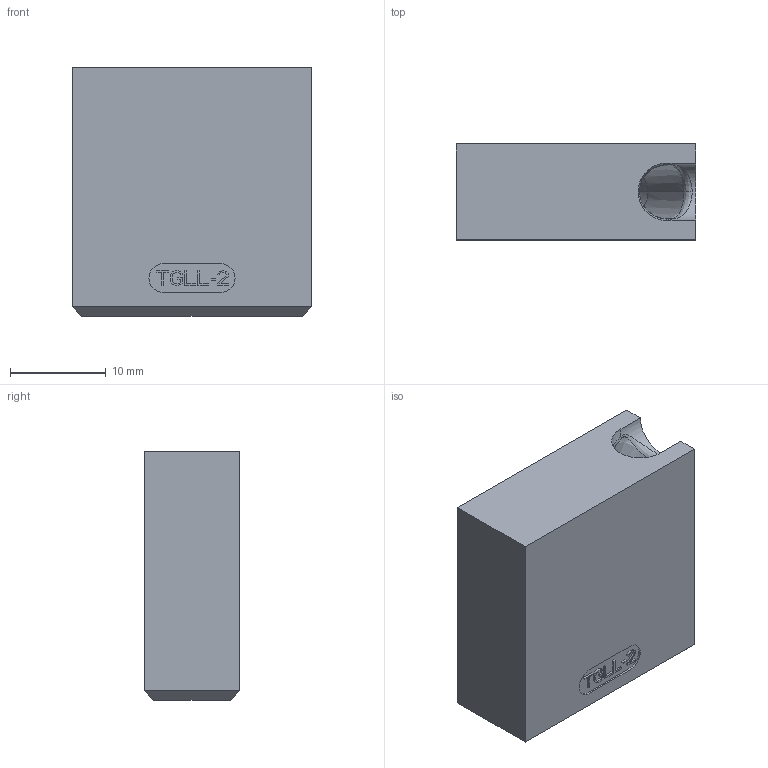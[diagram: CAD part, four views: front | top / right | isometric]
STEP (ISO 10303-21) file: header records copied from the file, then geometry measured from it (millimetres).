
FILE_DESCRIPTION((''),'2;1');
FILE_NAME('TGLL-2','2018-10-08T',('gsawatzky'),(''),'CREO PARAMETRIC BY PTC INC, 2016260','CREO PARAMETRIC BY PTC INC, 2016260','');
FILE_SCHEMA(('AUTOMOTIVE_DESIGN { 1 0 10303 214 1 1 1 1 }'));
Length unit declared in the file: millimetre
Products named in the file (1): TGLL-2
Bounding box: 25 x 10 x 26 mm (x, y, z)
Volume: 5916.5 mm3; surface area: 2863.7 mm2
Topology: 1 solids, 4 shells, 175 faces, 472 edges, 303 vertices
Faces by surface type: plane 137, bspline 12, cylinder 9, sphere 7, cone 4, extrusion 2, torus 2, revolution 2
Entity records: 8387 total; most frequent: CARTESIAN_POINT 2534, ORIENTED_EDGE 918, DIRECTION 808, PRESENTATION_STYLE_ASSIGNMENT 467, STYLED_ITEM 467, CURVE_STYLE 463, EDGE_CURVE 463, VECTOR 392
